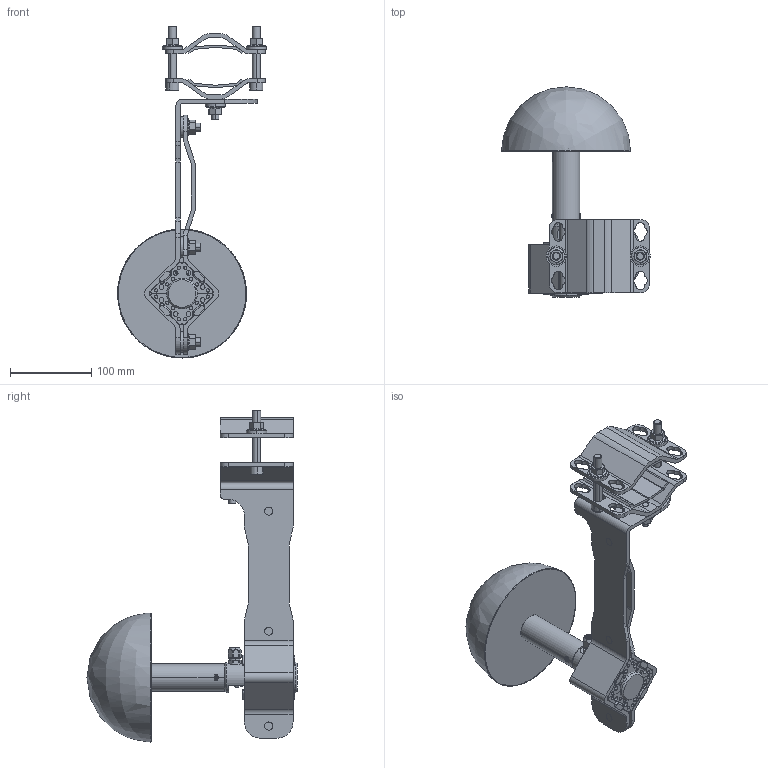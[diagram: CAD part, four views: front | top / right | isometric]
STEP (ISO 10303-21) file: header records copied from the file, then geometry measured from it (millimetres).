
FILE_DESCRIPTION (( 'STEP AP214' ), '1' );
FILE_NAME ('RFBRA.STEP', '2023-08-17T12:15:09', ( '' ), ( '' ), 'SwSTEP 2.0', 'SolidWorks 2023', '' );
FILE_SCHEMA (( 'AUTOMOTIVE_DESIGN' ));
Length unit declared in the file: millimetre
Products named in the file (26): BRASH; CABLE; ORING 25.05x2.62; RFSPHERE; RFSEN; AVARM; BLONG; BN 611 M10x70; BRARF; BN 1593 M3x5; BN 610 M10x40; BRARB; REAFR; RF4; RFBRA; BN 33010 M10; DAMPN; BN 33021 M4x8; REABK; RFBASE; GLAND; BN 13289 M10x25x4; REARM; LABRF; VBRAR; BLONGP
Assembly tree (48 placements, depth 6):
  RFBRA
    RF4
      RFSEN
        RFBASE
          BLONGP
            BLONG
            ORING 25.05x2.62  x2
            BN 33021 M4x8  x2
            BN 1593 M3x5  x4
          LABRF
          ORING 25.05x2.62  x2
          CABLE
            GLAND
        RFSPHERE
    AVARM
      VBRAR
        BRARF
        BN 33010 M10  x4
        BN 13289 M10x25x4  x4
        BRARB
        BN 611 M10x70  x2
        BN 610 M10x40  x2
        BRASH  x2
      REARM
        REABK
        DAMPN  x2
        BN 33010 M10  x3
        REAFR
        BN 13289 M10x25x4  x3
Bounding box: 183.49 x 259.2 x 409.3 mm (x, y, z)
Volume: 706742.8 mm3; surface area: 436435.4 mm2
Topology: 48 solids, 49 shells, 2585 faces, 6651 edges, 4322 vertices
Faces by surface type: plane 1214, bspline 570, cylinder 495, cone 200, torus 98, sphere 8
Entity records: 108259 total; most frequent: CARTESIAN_POINT 45436, ORIENTED_EDGE 10962, DIRECTION 8198, EDGE_CURVE 5481, VERTEX_POINT 3614, LINE 3374, VECTOR 3374, AXIS2_PLACEMENT_3D 2412
